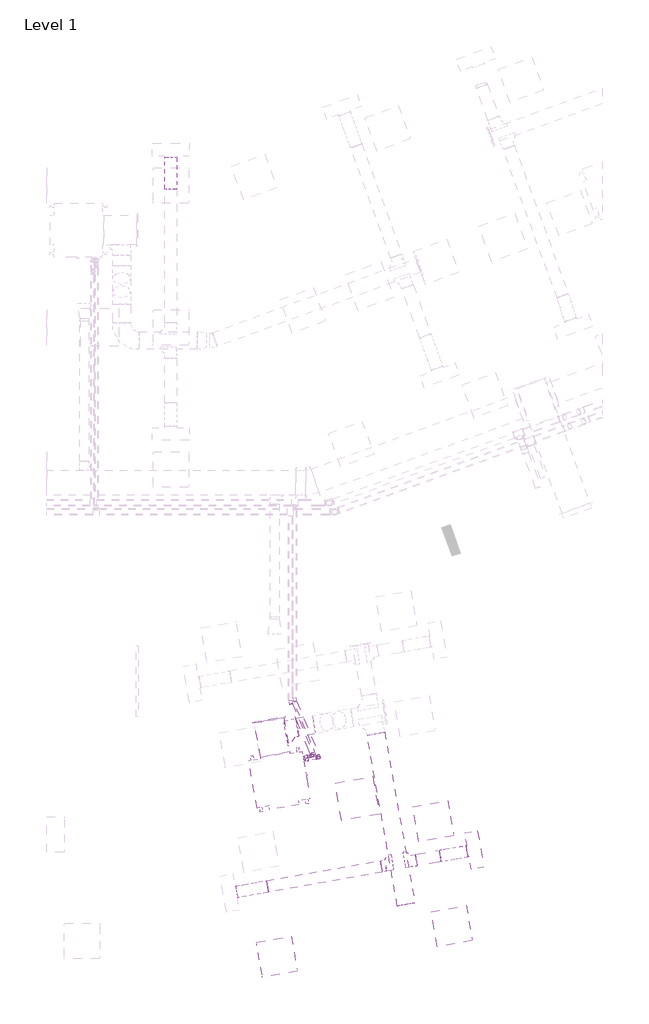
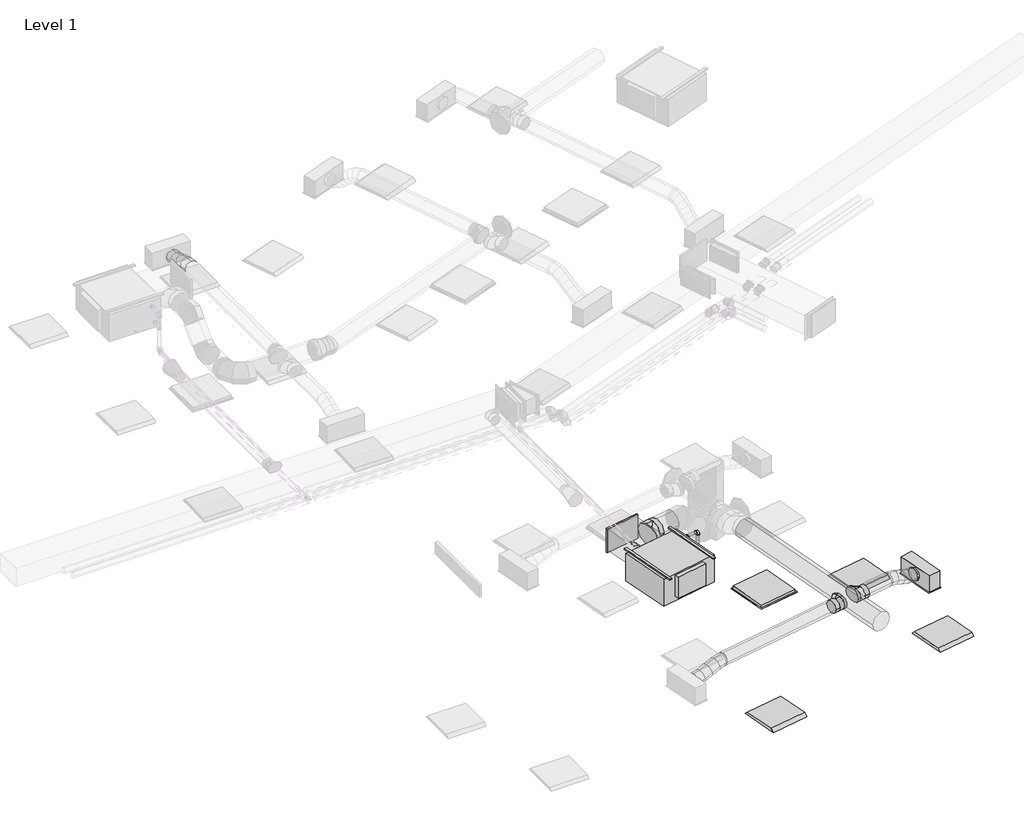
# One storey, part 15 of 30: 8 duct segments, 8 pipe fittings, 6 pipe segments, 4 duct fittings, 3 light fixtures, 2 air terminals, 1 proxy.
"""IFC4 building model written with IfcOpenShell, lengths in millimetres."""

from ifc_helpers import new_model, si_unit, point, frame, frame_2d, origin, place, context, project, spatial, polyline, circle_curve, ellipse_curve, trimmed, segment, composite_curve, outline, extrude, transform, mapped, element, save
from ifc_brep_helpers import plane_surface, cylinder_surface, advanced_brep
from components import return_grille_rectangular_hosted_standard_7b12617c, supply_diffuser_with_plenum_linear_slot_hosted_7a86b773, fan_coil_unit_ceiling_ducted_chw_376_lps_d7d55c98, dw144_rectangular_blank_end_standard_8fde7d16, dw144_round_shoe_branch_slip_joint1_standard_2_3a899113, dw144_round_shoe_branch_slip_joint1_standard_2_809a1802, light_fixture_1c7c1157, light_fixture_b730b5ca, elbow_threaded_gmi_standard_b4aa7741, elbow_threaded_gmi_standard_b1050e4a, socket_reducing_threaded_gmi_standard_0a4076b8

model = new_model("IFC4")

# Units and contexts
model_context = context("Model", 3, world=origin())
ifc_project = project(units=[si_unit("LENGTHUNIT", "METRE", prefix="MILLI")], contexts=[model_context])

# Site, building, storey
site = spatial("IfcSite", under=ifc_project)
building = spatial("IfcBuilding", under=site)
storey = spatial("IfcBuildingStorey", under=building, Name="Level 1", Elevation=3900.0)

# Air terminals
placement = place(None, origin())
return_grille_rectangular_hosted_standard_shape = return_grille_rectangular_hosted_standard_7b12617c(model_context)
element("IfcAirTerminal", 1, ObjectType="Return Grille - Rectangular - Hosted : Standard", at=placement, inside=storey, context=model_context, shape_type="MappedRepresentation", body=[
    mapped(return_grille_rectangular_hosted_standard_shape, transform((33910.5082617, 3801.8100308, 6700.0), x_axis=(0.9848077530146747, 0.17364817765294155, 0.0), y_axis=(0.17364817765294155, -0.9848077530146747, 0.0), z_axis=(0.0, 0.0, -1.0))),
])
supply_diffuser_with_plenum_linear_slot_hosted_shape = supply_diffuser_with_plenum_linear_slot_hosted_7a86b773(model_context)
element("IfcAirTerminal", 2, ObjectType="Supply Diffuser with Plenum - Linear Slot - Hosted : 24\" x 8\"-200 In Inlet  4-Slot", at=placement, inside=storey, context=model_context, shape_type="MappedRepresentation", body=[
    mapped(supply_diffuser_with_plenum_linear_slot_hosted_shape, transform((35891.5400303, 2932.607447, 6700.0), x_axis=(0.1736481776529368, -0.9848077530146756, 0.0), y_axis=(-0.9848077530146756, -0.1736481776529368, 0.0), z_axis=(0.0, 0.0, -1.0))),
])

# Proxy
fan_coil_unit_ceiling_ducted_chw_376_lps_shape = fan_coil_unit_ceiling_ducted_chw_376_lps_d7d55c98(model_context)
element("IfcBuildingElementProxy", 3, Name="Fan Coil Unit - Ceiling Ducted - CHW : 376 LPS", ObjectType="Fan Coil Unit - Ceiling Ducted - CHW : 376 LPS", at=placement, inside=storey, context=model_context, shape_type="MappedRepresentation", body=[
    mapped(fan_coil_unit_ceiling_ducted_chw_376_lps_shape, transform((32078.1076261, 4440.8551668, 7115.575), x_axis=(0.9848077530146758, 0.17364817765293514, 0.0), y_axis=(-0.17364817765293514, 0.9848077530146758, 0.0), z_axis=(0.0, 0.0, 1.0))),
])

# Duct fittings
dw144_rectangular_blank_end_standard_shape = dw144_rectangular_blank_end_standard_8fde7d16(model_context)
element("IfcDuctFitting", 4, ObjectType="DW144 Rectangular Blank End : Standard", at=placement, inside=storey, context=model_context, shape_type="MappedRepresentation", body=[
    mapped(dw144_rectangular_blank_end_standard_shape, transform((32422.2764887, 5121.8864184, 7369.575), x_axis=(-0.17364817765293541, 0.9848077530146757, 0.0), y_axis=(-0.9848077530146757, -0.17364817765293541, 0.0), z_axis=(0.0, 0.0, 1.0))),
])
dw144_round_shoe_branch_slip_joint1_standard_2_shape = dw144_round_shoe_branch_slip_joint1_standard_2_3a899113(model_context)
element("IfcDuctFitting", 5, ObjectType="DW144 Round Shoe Branch - Slip Joint1 : Standard 2", at=placement, inside=storey, context=model_context, shape_type="MappedRepresentation", body=[
    mapped(dw144_round_shoe_branch_slip_joint1_standard_2_shape, transform((34466.8544313, 2681.3969368, 6972.2088531), x_axis=(-0.9848077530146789, -0.17364817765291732, 0.0), y_axis=(0.17364817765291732, -0.9848077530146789, 0.0), z_axis=(0.0, 0.0, 1.0))),
])
element("IfcDuctFitting", 6, ObjectType="DW144 Round Shoe Branch - Slip Joint1 : Standard 2", at=placement, inside=storey, context=model_context, shape_type="MappedRepresentation", body=[
    mapped(dw144_round_shoe_branch_slip_joint1_standard_2_shape, transform((34762.2967572, 2733.4913901, 6972.2088531), x_axis=(0.9848077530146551, 0.1736481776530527, 0.0), y_axis=(0.1736481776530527, -0.9848077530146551, 0.0), z_axis=(0.0, 0.0, -1.0))),
])
dw144_round_shoe_branch_slip_joint1_standard_2_2_shape = dw144_round_shoe_branch_slip_joint1_standard_2_809a1802(model_context)
element("IfcDuctFitting", 7, ObjectType="DW144 Round Shoe Branch - Slip Joint1 : Standard 2", at=placement, inside=storey, context=model_context, shape_type="MappedRepresentation", body=[
    mapped(dw144_round_shoe_branch_slip_joint1_standard_2_2_shape, transform((32703.167519, 4968.5668456, 7369.575), x_axis=(0.9848077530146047, 0.17364817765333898, 0.0), y_axis=(-0.17364817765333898, 0.9848077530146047, 0.0), z_axis=(0.0, 0.0, 1.0))),
])

# Duct segments
element("IfcDuctSegment", 8, ObjectType="DW144 Flanged Med Radius Bend / Shoe Branch", at=placement, inside=storey, context=model_context, shape_type="SweptSolid", body=[
    extrude(outline(polyline([(32770.1530053, 4588.6732749), (32277.7491288, 4501.8491861), (32176.0745504, 5078.474374), (32668.4784269, 5165.2984628), (32770.1530053, 4588.6732749)])), frame((0.0, 0.0, 7194.575), z_axis=(0.0, 0.0, 1.0), x_axis=(1.0, 0.0, 0.0)), (0.0, 0.0, 1.0), 350.0),
])
element("IfcDuctSegment", 9, ObjectType="DW144 Segmented Bend / Shoe Branch", at=placement, inside=storey, context=model_context, shape_type="SweptSolid", body=[
    extrude(outline(composite_curve([segment(trimmed(circle_curve(frame_2d((0.0, 157.5)), 157.5), [point((157.5, 157.5))], [point((0.0, 0.0))], False, "CARTESIAN"), True, "CONTINUOUS"), segment(trimmed(circle_curve(frame_2d((0.0, 157.5)), 157.5), [point((0.0, 0.0))], [point((-157.5, 157.5))], False, "CARTESIAN"), True, "CONTINUOUS"), segment(trimmed(circle_curve(frame_2d((0.0, 157.5)), 157.5), [point((-157.5, 157.5))], [point((0.0, 315.0))], False, "CARTESIAN"), True, "CONTINUOUS"), segment(trimmed(circle_curve(frame_2d((0.0, 157.5)), 157.5), [point((0.0, 315.0))], [point((157.5, 157.5))], False, "CARTESIAN"), True, "CONTINUOUS")], self_intersect=False)), frame((32900.1290696, 5003.2964811, 7527.075), z_axis=(0.9848077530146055, 0.17364817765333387, 0.0), x_axis=(0.17364817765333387, -0.9848077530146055, 0.0)), (0.0, 0.0, 1.0), 282.8859657),
])
element("IfcDuctSegment", 10, ObjectType="DW144 Segmented Bend / Shoe Branch", at=placement, inside=storey, context=model_context, shape_type="SweptSolid", body=[
    extrude(outline(composite_curve([segment(trimmed(circle_curve(frame_2d((0.0, 100.0)), 100.0), [point((100.0, 100.0))], [point((0.0, 0.0))], False, "CARTESIAN"), True, "CONTINUOUS"), segment(trimmed(circle_curve(frame_2d((0.0, 100.0)), 100.0), [point((0.0, 0.0))], [point((-100.0, 100.0))], False, "CARTESIAN"), True, "CONTINUOUS"), segment(trimmed(circle_curve(frame_2d((0.0, 100.0)), 100.0), [point((-100.0, 100.0))], [point((0.0, 200.0))], False, "CARTESIAN"), True, "CONTINUOUS"), segment(trimmed(circle_curve(frame_2d((0.0, 100.0)), 100.0), [point((0.0, 200.0))], [point((100.0, 100.0))], False, "CARTESIAN"), True, "CONTINUOUS")], self_intersect=False)), frame((34910.0179201, 2759.5386168, 7072.2088531), z_axis=(0.9848077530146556, 0.1736481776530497, 0.0), x_axis=(0.1736481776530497, -0.9848077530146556, 0.0)), (0.0, 0.0, 1.0), 410.0),
])
element("IfcDuctSegment", 11, ObjectType="DW144 Segmented Bend / Shoe Branch", at=placement, inside=storey, context=model_context, shape_type="SweptSolid", body=[
    extrude(outline(composite_curve([segment(trimmed(circle_curve(frame_2d((0.0, -100.0)), 100.0), [point((-100.0, -100.0))], [point((0.0, 0.0))], False, "CARTESIAN"), True, "CONTINUOUS"), segment(trimmed(circle_curve(frame_2d((0.0, -100.0)), 100.0), [point((0.0, 0.0))], [point((100.0, -100.0))], False, "CARTESIAN"), True, "CONTINUOUS"), segment(trimmed(circle_curve(frame_2d((0.0, -100.0)), 100.0), [point((100.0, -100.0))], [point((0.0, -200.0))], False, "CARTESIAN"), True, "CONTINUOUS"), segment(trimmed(circle_curve(frame_2d((0.0, -100.0)), 100.0), [point((0.0, -200.0))], [point((-100.0, -100.0))], False, "CARTESIAN"), True, "CONTINUOUS")], self_intersect=False)), frame((32398.75815, 2316.7357638, 6872.2088531), z_axis=(0.9848077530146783, 0.1736481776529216, 0.0), x_axis=(0.1736481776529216, -0.9848077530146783, 0.0)), (0.0, 0.0, 1.0), 1950.0),
])
element("IfcDuctSegment", 12, ObjectType="DW144 Segmented Bend / Shoe Branch", at=placement, inside=storey, context=model_context, shape_type="SweptSolid", body=[
    extrude(outline(composite_curve([segment(trimmed(circle_curve(frame_2d((0.0, -150.0)), 150.0), [point((-150.0, -150.0))], [point((0.0, 0.0))], False, "CARTESIAN"), True, "CONTINUOUS"), segment(trimmed(circle_curve(frame_2d((0.0, -150.0)), 150.0), [point((0.0, 0.0))], [point((150.0, -150.0))], False, "CARTESIAN"), True, "CONTINUOUS"), segment(trimmed(circle_curve(frame_2d((0.0, -150.0)), 150.0), [point((150.0, -150.0))], [point((0.0, -300.0))], False, "CARTESIAN"), True, "CONTINUOUS"), segment(trimmed(circle_curve(frame_2d((0.0, -150.0)), 150.0), [point((0.0, -300.0))], [point((-150.0, -150.0))], False, "CARTESIAN"), True, "CONTINUOUS")], self_intersect=False)), frame((34737.6074608, 2009.6957754, 6822.2088531), z_axis=(-0.17364817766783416, 0.9848077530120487, 0.0), x_axis=(0.9848077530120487, 0.17364817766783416, 0.0)), (0.0, 0.0, 1.0), 2934.6959585),
])
element("IfcDuctSegment", 13, ObjectType="Flex - Round", at=placement, inside=storey, context=model_context, shape_type="AdvancedBrep", body=[
    advanced_brep(
    [(32416.1229677, 2218.2549885, 6972.2088531), (32398.75815, 2316.7357638, 6872.2088531), (32381.3933322, 2415.2165391, 6972.2088531), (32398.75815, 2316.7357638, 7072.2088531), (32402.6021578, 2215.8709049, 6972.2088531), (32392.8043595, 2315.6859499, 6872.2088531), (32367.8725222, 2412.8324555, 6972.2088531), (32377.6703205, 2313.0174105, 7072.2088531), (31897.7828701, 2126.8576441, 6854.4), (31880.4180523, 2225.3384194, 6954.4), (31863.0532345, 2323.8191947, 6854.4), (31880.4180523, 2225.3384194, 6754.4), (32285.3355536, 2195.1936386, 6953.8012198), (32290.2224077, 2297.597984, 6856.1063066), (32250.6059181, 2392.1551892, 6953.8012198), (32245.7190639, 2289.7508438, 7051.4961331), (32156.9529189, 2172.5563163, 6913.3044266), (32168.8035633, 2276.1885658, 6817.8061591), (32122.2232834, 2369.5178669, 6913.3044266), (32110.3726389, 2265.8856173, 7008.802694), (32028.5702842, 2149.9189939, 6872.8076333), (32033.4571383, 2252.3233393, 6775.1127201), (31993.8406487, 2346.8805445, 6872.8076333), (31988.9537945, 2244.4761991, 6970.5025465), (31911.30368, 2129.2417277, 6854.4), (31901.5058817, 2229.0567727, 6754.4), (31876.5740445, 2326.2032783, 6854.4), (31886.3718428, 2226.3882333, 6954.4)],
    [
        (0, 1, circle_curve(frame((32398.75815, 2316.7357638, 6972.2088531), z_axis=(0.9848077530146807, 0.17364817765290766, 0.0), x_axis=(0.17364817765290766, -0.9848077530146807, 0.0)), 100.0)),
        (1, 2, circle_curve(frame((32398.75815, 2316.7357638, 6972.2088531), z_axis=(0.9848077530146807, 0.17364817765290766, 0.0), x_axis=(0.17364817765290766, -0.9848077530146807, 0.0)), 100.0)),
        (2, 3, circle_curve(frame((32398.75815, 2316.7357638, 6972.2088531), z_axis=(0.9848077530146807, 0.17364817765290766, 0.0), x_axis=(0.17364817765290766, -0.9848077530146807, 0.0)), 100.0)),
        (3, 0, circle_curve(frame((32398.75815, 2316.7357638, 6972.2088531), z_axis=(0.9848077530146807, 0.17364817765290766, 0.0), x_axis=(0.17364817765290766, -0.9848077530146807, 0.0)), 100.0)),
        (0, 4),
        (4, 5, ellipse_curve(frame((32385.23734, 2314.3516802, 6972.2088531), z_axis=(0.9819134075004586, 0.17313782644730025, 0.0766117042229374), x_axis=(0.07544780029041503, 0.01330348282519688, -0.9970610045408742)), 100.2947659, 100.0)),
        (5, 1),
        (5, 6, ellipse_curve(frame((32385.23734, 2314.3516802, 6972.2088531), z_axis=(0.9819134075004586, 0.17313782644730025, 0.0766117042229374), x_axis=(0.07544780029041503, 0.01330348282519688, -0.9970610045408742)), 100.2947659, 100.0)),
        (6, 2),
        (6, 7, ellipse_curve(frame((32385.23734, 2314.3516802, 6972.2088531), z_axis=(0.9819134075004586, 0.17313782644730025, 0.0766117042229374), x_axis=(0.07544780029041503, 0.01330348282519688, -0.9970610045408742)), 100.2947659, 100.0)),
        (7, 3),
        (7, 4, ellipse_curve(frame((32385.23734, 2314.3516802, 6972.2088531), z_axis=(0.9819134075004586, 0.17313782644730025, 0.0766117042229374), x_axis=(0.07544780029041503, 0.01330348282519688, -0.9970610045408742)), 100.2947659, 100.0)),
        (8, 9, circle_curve(frame((31880.4180523, 2225.3384194, 6854.4), z_axis=(-0.9848077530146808, -0.17364817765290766, 0.0), x_axis=(0.17364817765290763, -0.9848077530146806, 0.0)), 100.0)),
        (9, 10, circle_curve(frame((31880.4180523, 2225.3384194, 6854.4), z_axis=(-0.9848077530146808, -0.17364817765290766, 0.0), x_axis=(0.17364817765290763, -0.9848077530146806, 0.0)), 100.0)),
        (10, 11, circle_curve(frame((31880.4180523, 2225.3384194, 6854.4), z_axis=(-0.9848077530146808, -0.17364817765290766, 0.0), x_axis=(0.17364817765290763, -0.9848077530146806, 0.0)), 100.0)),
        (11, 8, circle_curve(frame((31880.4180523, 2225.3384194, 6854.4), z_axis=(-0.9848077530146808, -0.17364817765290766, 0.0), x_axis=(0.17364817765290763, -0.9848077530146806, 0.0)), 100.0)),
        (4, 12),
        (12, 13, ellipse_curve(frame((32267.9707358, 2293.6744139, 6953.8012198), z_axis=(0.9594803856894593, 0.16918227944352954, 0.225332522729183), x_axis=(0.22190921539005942, 0.039128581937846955, -0.9742819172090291)), 100.2737622, 100.0)),
        (13, 5),
        (13, 14, ellipse_curve(frame((32267.9707358, 2293.6744139, 6953.8012198), z_axis=(0.9594803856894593, 0.16918227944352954, 0.225332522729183), x_axis=(0.22190921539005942, 0.039128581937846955, -0.9742819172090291)), 100.2737622, 100.0)),
        (14, 6),
        (14, 15, ellipse_curve(frame((32267.9707358, 2293.6744139, 6953.8012198), z_axis=(0.9594803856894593, 0.16918227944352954, 0.225332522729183), x_axis=(0.22190921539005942, 0.039128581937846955, -0.9742819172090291)), 100.2737622, 100.0)),
        (15, 7),
        (15, 12, ellipse_curve(frame((32267.9707358, 2293.6744139, 6953.8012198), z_axis=(0.9594803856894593, 0.16918227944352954, 0.225332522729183), x_axis=(0.22190921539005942, 0.039128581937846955, -0.9742819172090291)), 100.2737622, 100.0)),
        (12, 16),
        (16, 17, circle_curve(frame((32139.5881011, 2271.0370916, 6913.3044266), z_axis=(0.9404743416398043, 0.16583100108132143, 0.2966615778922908), x_axis=(0.17364817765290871, -0.9848077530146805, 0.0)), 100.0)),
        (17, 13),
        (17, 18, circle_curve(frame((32139.5881011, 2271.0370916, 6913.3044266), z_axis=(0.9404743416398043, 0.16583100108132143, 0.2966615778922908), x_axis=(0.17364817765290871, -0.9848077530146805, 0.0)), 100.0)),
        (18, 14),
        (18, 19, circle_curve(frame((32139.5881011, 2271.0370916, 6913.3044266), z_axis=(0.9404743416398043, 0.16583100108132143, 0.2966615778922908), x_axis=(0.17364817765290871, -0.9848077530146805, 0.0)), 100.0)),
        (19, 15),
        (19, 16, circle_curve(frame((32139.5881011, 2271.0370916, 6913.3044266), z_axis=(0.9404743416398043, 0.16583100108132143, 0.2966615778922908), x_axis=(0.17364817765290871, -0.9848077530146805, 0.0)), 100.0)),
        (16, 20),
        (20, 21, ellipse_curve(frame((32011.2054664, 2248.3997692, 6872.8076333), z_axis=(0.9594803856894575, 0.16918227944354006, 0.22533252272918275), x_axis=(-0.22190921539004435, -0.039128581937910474, 0.9742819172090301)), 100.2737622, 100.0)),
        (21, 17),
        (21, 22, ellipse_curve(frame((32011.2054664, 2248.3997692, 6872.8076333), z_axis=(0.9594803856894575, 0.16918227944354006, 0.22533252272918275), x_axis=(-0.22190921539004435, -0.039128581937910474, 0.9742819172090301)), 100.2737622, 100.0)),
        (22, 18),
        (22, 23, ellipse_curve(frame((32011.2054664, 2248.3997692, 6872.8076333), z_axis=(0.9594803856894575, 0.16918227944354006, 0.22533252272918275), x_axis=(-0.22190921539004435, -0.039128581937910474, 0.9742819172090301)), 100.2737622, 100.0)),
        (23, 19),
        (23, 20, ellipse_curve(frame((32011.2054664, 2248.3997692, 6872.8076333), z_axis=(0.9594803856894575, 0.16918227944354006, 0.22533252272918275), x_axis=(-0.22190921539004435, -0.039128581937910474, 0.9742819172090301)), 100.2737622, 100.0)),
        (20, 24),
        (24, 25, ellipse_curve(frame((31893.9388622, 2227.722503, 6854.4), z_axis=(0.9819134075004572, 0.17313782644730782, 0.07661170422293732), x_axis=(-0.07544780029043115, -0.013303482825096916, 0.9970610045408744)), 100.2947659, 100.0)),
        (25, 21),
        (25, 26, ellipse_curve(frame((31893.9388622, 2227.722503, 6854.4), z_axis=(0.9819134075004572, 0.17313782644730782, 0.07661170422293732), x_axis=(-0.07544780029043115, -0.013303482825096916, 0.9970610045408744)), 100.2947659, 100.0)),
        (26, 22),
        (26, 27, ellipse_curve(frame((31893.9388622, 2227.722503, 6854.4), z_axis=(0.9819134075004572, 0.17313782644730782, 0.07661170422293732), x_axis=(-0.07544780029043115, -0.013303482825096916, 0.9970610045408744)), 100.2947659, 100.0)),
        (27, 23),
        (27, 24, ellipse_curve(frame((31893.9388622, 2227.722503, 6854.4), z_axis=(0.9819134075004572, 0.17313782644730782, 0.07661170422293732), x_axis=(-0.07544780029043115, -0.013303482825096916, 0.9970610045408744)), 100.2947659, 100.0)),
        (24, 8),
        (11, 25),
        (10, 26),
        (9, 27),
    ],
    [
        plane_surface(frame((32398.75815, 2316.7357638, 6872.2088531), z_axis=(0.9848077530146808, 0.17364817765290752, 0.0), x_axis=(0.17364817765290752, -0.9848077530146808, 0.0))),
        cylinder_surface(frame((32398.75815, 2316.7357638, 6972.2088531), z_axis=(0.9848077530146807, 0.17364817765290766, 0.0), x_axis=(0.17364817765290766, -0.9848077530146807, 0.0)), 100.0),
        plane_surface(frame((31880.4180523, 2225.3384194, 6754.4), z_axis=(-0.9848077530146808, -0.17364817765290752, 0.0), x_axis=(0.17364817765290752, -0.9848077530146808, 0.0))),
        cylinder_surface(frame((32385.23734, 2314.3516802, 6972.2088531), z_axis=(0.9732473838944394, 0.17160977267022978, 0.1527730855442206), x_axis=(0.17364817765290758, -0.9848077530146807, 0.0)), 100.0),
        cylinder_surface(frame((32267.9707358, 2293.6744139, 6953.8012198), z_axis=(0.9404743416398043, 0.16583100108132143, 0.2966615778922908), x_axis=(0.17364817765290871, -0.9848077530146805, 0.0)), 100.0),
        cylinder_surface(frame((32139.5881011, 2271.0370916, 6913.3044266), z_axis=(0.9404743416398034, 0.1658310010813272, 0.2966615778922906), x_axis=(0.17364817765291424, -0.9848077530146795, 0.0)), 100.0),
        cylinder_surface(frame((32011.2054664, 2248.3997692, 6872.8076333), z_axis=(0.9732473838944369, 0.17160977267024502, 0.15277308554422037), x_axis=(0.17364817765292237, -0.984807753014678, 0.0)), 100.0),
        cylinder_surface(frame((31893.9388622, 2227.722503, 6854.4), z_axis=(0.9848077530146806, 0.17364817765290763, 0.0), x_axis=(0.17364817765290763, -0.9848077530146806, 0.0)), 100.0),
    ],
    [
        (0, [[1, 2, 3, 4]]),
        (1, [[-1, 5, 6, 7]]),
        (1, [[-2, -7, 8, 9]]),
        (1, [[-3, -9, 10, 11]]),
        (1, [[-4, -11, 12, -5]]),
        (2, [[13, 14, 15, 16]]),
        (3, [[-6, 17, 18, 19]]),
        (3, [[-8, -19, 20, 21]]),
        (3, [[-10, -21, 22, 23]]),
        (3, [[-12, -23, 24, -17]]),
        (4, [[-18, 25, 26, 27]]),
        (4, [[-20, -27, 28, 29]]),
        (4, [[-22, -29, 30, 31]]),
        (4, [[-24, -31, 32, -25]]),
        (5, [[-26, 33, 34, 35]]),
        (5, [[-28, -35, 36, 37]]),
        (5, [[-30, -37, 38, 39]]),
        (5, [[-32, -39, 40, -33]]),
        (6, [[-34, 41, 42, 43]]),
        (6, [[-36, -43, 44, 45]]),
        (6, [[-38, -45, 46, 47]]),
        (6, [[-40, -47, 48, -41]]),
        (7, [[-42, 49, -16, 50]]),
        (7, [[-44, -50, -15, 51]]),
        (7, [[-46, -51, -14, 52]]),
        (7, [[-48, -52, -13, -49]]),
    ],
),
])
element("IfcDuctSegment", 14, ObjectType="Flex - Round", at=placement, inside=storey, context=model_context, shape_type="AdvancedBrep", body=[
    advanced_brep(
    [(35296.4242811, 2929.2151449, 6972.2088531), (35313.7890989, 2830.7343696, 6872.2088531), (35331.1539166, 2732.2535943, 6972.2088531), (35313.7890989, 2830.7343696, 7072.2088531), (35311.8187601, 2931.9296069, 6972.2088531), (35320.2545294, 2831.8743995, 6872.2088531), (35346.5483956, 2734.9680563, 6972.2088531), (35338.1126264, 2835.0232638, 7072.2088531), (35749.1046279, 3009.0349037, 6854.4), (35766.4694457, 2910.5541284, 6954.4), (35783.8342635, 2812.0733531, 6854.4), (35766.4694457, 2910.5541284, 6754.4), (35410.9660267, 2949.4119451, 6953.8012198), (35402.7633592, 2846.4229323, 6856.8903039), (35445.6956623, 2752.4503945, 6953.8012198), (35453.8983298, 2855.4394073, 7050.7121357), (35522.7644545, 2969.1250243, 6913.3044266), (35507.0407869, 2864.8098563, 6819.1178458), (35557.4940901, 2772.1634737, 6913.3044266), (35573.2177577, 2876.4786417, 7007.4910073), (35634.5628823, 2988.8381035, 6872.8076333), (35626.3602148, 2885.8490908, 6775.8967174), (35669.2925178, 2791.8765529, 6872.8076333), (35677.4951853, 2894.8655657, 6969.7185492), (35733.7101489, 3006.3204417, 6854.4), (35742.1459182, 2906.2652342, 6754.4), (35768.4397845, 2809.3588911, 6854.4), (35760.0040152, 2909.4140986, 6954.4)],
    [
        (0, 1, circle_curve(frame((35313.7890989, 2830.7343696, 6972.2088531), z_axis=(-0.9848077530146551, -0.17364817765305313, 0.0), x_axis=(-0.17364817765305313, 0.9848077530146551, 0.0)), 100.0)),
        (1, 2, circle_curve(frame((35313.7890989, 2830.7343696, 6972.2088531), z_axis=(-0.9848077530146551, -0.17364817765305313, 0.0), x_axis=(-0.17364817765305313, 0.9848077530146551, 0.0)), 100.0)),
        (2, 3, circle_curve(frame((35313.7890989, 2830.7343696, 6972.2088531), z_axis=(-0.9848077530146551, -0.17364817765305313, 0.0), x_axis=(-0.17364817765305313, 0.9848077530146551, 0.0)), 100.0)),
        (3, 0, circle_curve(frame((35313.7890989, 2830.7343696, 6972.2088531), z_axis=(-0.9848077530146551, -0.17364817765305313, 0.0), x_axis=(-0.17364817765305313, 0.9848077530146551, 0.0)), 100.0)),
        (0, 4),
        (4, 5, ellipse_curve(frame((35329.1835779, 2833.4488316, 6972.2088531), z_axis=(-0.9807846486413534, -0.1729387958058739, 0.09029754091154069), x_axis=(-0.08892571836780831, -0.015680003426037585, -0.9959148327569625)), 100.4101924, 100.0)),
        (5, 1),
        (5, 6, ellipse_curve(frame((35329.1835779, 2833.4488316, 6972.2088531), z_axis=(-0.9807846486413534, -0.1729387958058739, 0.09029754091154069), x_axis=(-0.08892571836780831, -0.015680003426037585, -0.9959148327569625)), 100.4101924, 100.0)),
        (6, 2),
        (6, 7, ellipse_curve(frame((35329.1835779, 2833.4488316, 6972.2088531), z_axis=(-0.9807846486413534, -0.1729387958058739, 0.09029754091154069), x_axis=(-0.08892571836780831, -0.015680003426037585, -0.9959148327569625)), 100.4101924, 100.0)),
        (7, 3),
        (7, 4, ellipse_curve(frame((35329.1835779, 2833.4488316, 6972.2088531), z_axis=(-0.9807846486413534, -0.1729387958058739, 0.09029754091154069), x_axis=(-0.08892571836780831, -0.015680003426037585, -0.9959148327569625)), 100.4101924, 100.0)),
        (8, 9, circle_curve(frame((35766.4694457, 2910.5541284, 6854.4), z_axis=(0.9848077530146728, 0.17364817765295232, 0.0), x_axis=(-0.17364817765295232, 0.9848077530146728, 0.0)), 100.0)),
        (9, 10, circle_curve(frame((35766.4694457, 2910.5541284, 6854.4), z_axis=(0.9848077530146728, 0.17364817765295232, 0.0), x_axis=(-0.17364817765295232, 0.9848077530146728, 0.0)), 100.0)),
        (10, 11, circle_curve(frame((35766.4694457, 2910.5541284, 6854.4), z_axis=(0.9848077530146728, 0.17364817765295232, 0.0), x_axis=(-0.17364817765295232, 0.9848077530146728, 0.0)), 100.0)),
        (11, 8, circle_curve(frame((35766.4694457, 2910.5541284, 6854.4), z_axis=(0.9848077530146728, 0.17364817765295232, 0.0), x_axis=(-0.17364817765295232, 0.9848077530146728, 0.0)), 100.0)),
        (4, 12),
        (12, 13, ellipse_curve(frame((35428.3308445, 2850.9311698, 6953.8012198), z_axis=(-0.9512642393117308, -0.1677335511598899, 0.25876978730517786), x_axis=(-0.25483849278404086, -0.04493490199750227, -0.9659390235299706)), 100.3281921, 100.0)),
        (13, 5),
        (13, 14, ellipse_curve(frame((35428.3308445, 2850.9311698, 6953.8012198), z_axis=(-0.9512642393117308, -0.1677335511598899, 0.25876978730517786), x_axis=(-0.25483849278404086, -0.04493490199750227, -0.9659390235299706)), 100.3281921, 100.0)),
        (14, 6),
        (14, 15, ellipse_curve(frame((35428.3308445, 2850.9311698, 6953.8012198), z_axis=(-0.9512642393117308, -0.1677335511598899, 0.25876978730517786), x_axis=(-0.25483849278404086, -0.04493490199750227, -0.9659390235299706)), 100.3281921, 100.0)),
        (15, 7),
        (15, 12, ellipse_curve(frame((35428.3308445, 2850.9311698, 6953.8012198), z_axis=(-0.9512642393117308, -0.1677335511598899, 0.25876978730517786), x_axis=(-0.25483849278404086, -0.04493490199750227, -0.9659390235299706)), 100.3281921, 100.0)),
        (12, 16),
        (16, 17, circle_curve(frame((35540.1292723, 2870.644249, 6913.3044266), z_axis=(-0.9275567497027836, -0.1635532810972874, 0.33598928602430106), x_axis=(-0.17364817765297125, 0.9848077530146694, 0.0)), 100.0)),
        (17, 13),
        (17, 18, circle_curve(frame((35540.1292723, 2870.644249, 6913.3044266), z_axis=(-0.9275567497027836, -0.1635532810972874, 0.33598928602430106), x_axis=(-0.17364817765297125, 0.9848077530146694, 0.0)), 100.0)),
        (18, 14),
        (18, 19, circle_curve(frame((35540.1292723, 2870.644249, 6913.3044266), z_axis=(-0.9275567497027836, -0.1635532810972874, 0.33598928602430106), x_axis=(-0.17364817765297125, 0.9848077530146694, 0.0)), 100.0)),
        (19, 15),
        (19, 16, circle_curve(frame((35540.1292723, 2870.644249, 6913.3044266), z_axis=(-0.9275567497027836, -0.1635532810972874, 0.33598928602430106), x_axis=(-0.17364817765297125, 0.9848077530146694, 0.0)), 100.0)),
        (16, 20),
        (20, 21, ellipse_curve(frame((35651.9277001, 2890.3573282, 6872.8076333), z_axis=(-0.9512642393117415, -0.16773355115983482, 0.258769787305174), x_axis=(0.2548384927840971, 0.04493490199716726, 0.9659390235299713)), 100.3281921, 100.0)),
        (21, 17),
        (21, 22, ellipse_curve(frame((35651.9277001, 2890.3573282, 6872.8076333), z_axis=(-0.9512642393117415, -0.16773355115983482, 0.258769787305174), x_axis=(0.2548384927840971, 0.04493490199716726, 0.9659390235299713)), 100.3281921, 100.0)),
        (22, 18),
        (22, 23, ellipse_curve(frame((35651.9277001, 2890.3573282, 6872.8076333), z_axis=(-0.9512642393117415, -0.16773355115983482, 0.258769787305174), x_axis=(0.2548384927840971, 0.04493490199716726, 0.9659390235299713)), 100.3281921, 100.0)),
        (23, 19),
        (23, 20, ellipse_curve(frame((35651.9277001, 2890.3573282, 6872.8076333), z_axis=(-0.9512642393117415, -0.16773355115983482, 0.258769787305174), x_axis=(0.2548384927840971, 0.04493490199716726, 0.9659390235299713)), 100.3281921, 100.0)),
        (20, 24),
        (24, 25, ellipse_curve(frame((35751.0749667, 2907.8396664, 6854.4), z_axis=(-0.9807846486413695, -0.1729387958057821, 0.09029754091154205), x_axis=(0.08892571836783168, 0.015680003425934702, 0.9959148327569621)), 100.4101924, 100.0)),
        (25, 21),
        (25, 26, ellipse_curve(frame((35751.0749667, 2907.8396664, 6854.4), z_axis=(-0.9807846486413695, -0.1729387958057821, 0.09029754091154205), x_axis=(0.08892571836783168, 0.015680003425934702, 0.9959148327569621)), 100.4101924, 100.0)),
        (26, 22),
        (26, 27, ellipse_curve(frame((35751.0749667, 2907.8396664, 6854.4), z_axis=(-0.9807846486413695, -0.1729387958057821, 0.09029754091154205), x_axis=(0.08892571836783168, 0.015680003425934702, 0.9959148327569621)), 100.4101924, 100.0)),
        (27, 23),
        (27, 24, ellipse_curve(frame((35751.0749667, 2907.8396664, 6854.4), z_axis=(-0.9807846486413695, -0.1729387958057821, 0.09029754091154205), x_axis=(0.08892571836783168, 0.015680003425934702, 0.9959148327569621)), 100.4101924, 100.0)),
        (24, 8),
        (11, 25),
        (10, 26),
        (9, 27),
    ],
    [
        plane_surface(frame((35313.7890989, 2830.7343696, 7072.2088531), z_axis=(-0.9848077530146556, -0.1736481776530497, 0.0), x_axis=(0.1736481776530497, -0.9848077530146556, 0.0))),
        cylinder_surface(frame((35313.7890989, 2830.7343696, 6972.2088531), z_axis=(-0.9848077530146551, -0.17364817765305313, 0.0), x_axis=(-0.17364817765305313, 0.9848077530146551, 0.0)), 100.0),
        plane_surface(frame((35766.4694457, 2910.5541284, 6954.4), z_axis=(0.9848077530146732, 0.1736481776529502, 0.0), x_axis=(0.1736481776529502, -0.9848077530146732, 0.0))),
        cylinder_surface(frame((35329.1835779, 2833.4488316, 6972.2088531), z_axis=(-0.9687482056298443, -0.1708164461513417, 0.17985732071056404), x_axis=(-0.17364817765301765, 0.9848077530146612, 0.0)), 100.0),
        cylinder_surface(frame((35428.3308445, 2850.9311698, 6953.8012198), z_axis=(-0.9275567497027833, -0.16355328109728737, 0.335989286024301), x_axis=(-0.17364817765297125, 0.9848077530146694, 0.0)), 100.0),
        cylinder_surface(frame((35540.1292723, 2870.644249, 6913.3044266), z_axis=(-0.9275567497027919, -0.16355328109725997, 0.33598928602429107), x_axis=(-0.17364817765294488, 0.9848077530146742, 0.0)), 100.0),
        cylinder_surface(frame((35651.9277001, 2890.3573282, 6872.8076333), z_axis=(-0.9687482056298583, -0.17081644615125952, 0.17985732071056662), x_axis=(-0.17364817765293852, 0.9848077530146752, 0.0)), 100.0),
        cylinder_surface(frame((35751.0749667, 2907.8396664, 6854.4), z_axis=(-0.9848077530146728, -0.17364817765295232, 0.0), x_axis=(-0.17364817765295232, 0.9848077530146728, 0.0)), 100.0),
    ],
    [
        (0, [[1, 2, 3, 4]]),
        (1, [[-1, 5, 6, 7]]),
        (1, [[-2, -7, 8, 9]]),
        (1, [[-3, -9, 10, 11]]),
        (1, [[-4, -11, 12, -5]]),
        (2, [[13, 14, 15, 16]]),
        (3, [[-6, 17, 18, 19]]),
        (3, [[-8, -19, 20, 21]]),
        (3, [[-10, -21, 22, 23]]),
        (3, [[-12, -23, 24, -17]]),
        (4, [[-18, 25, 26, 27]]),
        (4, [[-20, -27, 28, 29]]),
        (4, [[-22, -29, 30, 31]]),
        (4, [[-24, -31, 32, -25]]),
        (5, [[-26, 33, 34, 35]]),
        (5, [[-28, -35, 36, 37]]),
        (5, [[-30, -37, 38, 39]]),
        (5, [[-32, -39, 40, -33]]),
        (6, [[-34, 41, 42, 43]]),
        (6, [[-36, -43, 44, 45]]),
        (6, [[-38, -45, 46, 47]]),
        (6, [[-40, -47, 48, -41]]),
        (7, [[-42, 49, -16, 50]]),
        (7, [[-44, -50, -15, 51]]),
        (7, [[-46, -51, -14, 52]]),
        (7, [[-48, -52, -13, -49]]),
    ],
),
])
element("IfcDuctSegment", 15, ObjectType="Flex - Round", at=placement, inside=storey, context=model_context, shape_type="AdvancedBrep", body=[
    advanced_brep(
    [(30662.2000027, 14100.4916128, 6972.2088531), (30762.2000027, 14100.4916128, 6872.2088531), (30862.2000027, 14100.4916128, 6972.2088531), (30762.2000027, 14100.4916128, 7072.2088531), (30662.2000027, 14113.9893992, 6972.2088531), (30762.2000027, 14106.4651408, 6872.2088531), (30862.2000027, 14113.9893992, 6972.2088531), (30762.2000027, 14121.5136576, 7072.2088531), (30662.2000027, 14636.2000004, 6854.4), (30762.2000027, 14636.2000004, 6954.4), (30862.2000027, 14636.2000004, 6854.4), (30762.2000027, 14636.2000004, 6754.4), (30662.2000027, 14235.618791, 6953.8012198), (30762.2000027, 14213.4273542, 6856.0209797), (30862.2000027, 14235.618791, 6953.8012198), (30762.2000027, 14257.8102277, 7051.58146), (30662.2000027, 14368.3458066, 6913.3044266), (30762.2000027, 14339.1626335, 6817.657459), (30862.2000027, 14368.3458066, 6913.3044266), (30762.2000027, 14397.5289797, 7008.9513941), (30662.2000027, 14501.0728222, 6872.8076333), (30762.2000027, 14478.8813855, 6775.0273932), (30862.2000027, 14501.0728222, 6872.8076333), (30762.2000027, 14523.264259, 6970.5878734), (30662.2000027, 14622.702214, 6854.4), (30762.2000027, 14615.1779556, 6754.4), (30862.2000027, 14622.702214, 6854.4), (30762.2000027, 14630.2264724, 6954.4)],
    [
        (0, 1, circle_curve(frame((30762.2000027, 14100.4916128, 6972.2088531), z_axis=(0.0, -1.0, 0.0), x_axis=(-1.0, 0.0, 0.0)), 100.0)),
        (1, 2, circle_curve(frame((30762.2000027, 14100.4916128, 6972.2088531), z_axis=(0.0, -1.0, 0.0), x_axis=(-1.0, 0.0, 0.0)), 100.0)),
        (2, 3, circle_curve(frame((30762.2000027, 14100.4916128, 6972.2088531), z_axis=(0.0, -1.0, 0.0), x_axis=(-1.0, 0.0, 0.0)), 100.0)),
        (3, 0, circle_curve(frame((30762.2000027, 14100.4916128, 6972.2088531), z_axis=(0.0, -1.0, 0.0), x_axis=(-1.0, 0.0, 0.0)), 100.0)),
        (0, 4),
        (4, 5, ellipse_curve(frame((30762.2000027, 14113.9893992, 6972.2088531), z_axis=(0.0, -0.9971812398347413, 0.07503049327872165), x_axis=(0.0, -0.07503049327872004, -0.9971812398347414)), 100.2826728, 100.0)),
        (5, 1),
        (5, 6, ellipse_curve(frame((30762.2000027, 14113.9893992, 6972.2088531), z_axis=(0.0, -0.9971812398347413, 0.07503049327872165), x_axis=(0.0, -0.07503049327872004, -0.9971812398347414)), 100.2826728, 100.0)),
        (6, 2),
        (6, 7, ellipse_curve(frame((30762.2000027, 14113.9893992, 6972.2088531), z_axis=(0.0, -0.9971812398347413, 0.07503049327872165), x_axis=(0.0, -0.07503049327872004, -0.9971812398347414)), 100.2826728, 100.0)),
        (7, 3),
        (7, 4, ellipse_curve(frame((30762.2000027, 14113.9893992, 6972.2088531), z_axis=(0.0, -0.9971812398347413, 0.07503049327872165), x_axis=(0.0, -0.07503049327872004, -0.9971812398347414)), 100.2826728, 100.0)),
        (8, 9, circle_curve(frame((30762.2000027, 14636.2000004, 6854.4), z_axis=(0.0, 1.0, 0.0), x_axis=(-1.0, 0.0, 0.0)), 100.0)),
        (9, 10, circle_curve(frame((30762.2000027, 14636.2000004, 6854.4), z_axis=(0.0, 1.0, 0.0), x_axis=(-1.0, 0.0, 0.0)), 100.0)),
        (10, 11, circle_curve(frame((30762.2000027, 14636.2000004, 6854.4), z_axis=(0.0, 1.0, 0.0), x_axis=(-1.0, 0.0, 0.0)), 100.0)),
        (11, 8, circle_curve(frame((30762.2000027, 14636.2000004, 6854.4), z_axis=(0.0, 1.0, 0.0), x_axis=(-1.0, 0.0, 0.0)), 100.0)),
        (4, 12),
        (12, 13, ellipse_curve(frame((30762.2000027, 14235.618791, 6953.8012198), z_axis=(0.0, -0.9752003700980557, 0.22132383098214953), x_axis=(0.0, -0.22132383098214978, -0.9752003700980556)), 100.2668202, 100.0)),
        (13, 5),
        (13, 14, ellipse_curve(frame((30762.2000027, 14235.618791, 6953.8012198), z_axis=(0.0, -0.9752003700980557, 0.22132383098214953), x_axis=(0.0, -0.22132383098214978, -0.9752003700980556)), 100.2668202, 100.0)),
        (14, 6),
        (14, 15, ellipse_curve(frame((30762.2000027, 14235.618791, 6953.8012198), z_axis=(0.0, -0.9752003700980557, 0.22132383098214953), x_axis=(0.0, -0.22132383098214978, -0.9752003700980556)), 100.2668202, 100.0)),
        (15, 7),
        (15, 12, ellipse_curve(frame((30762.2000027, 14235.618791, 6953.8012198), z_axis=(0.0, -0.9752003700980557, 0.22132383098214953), x_axis=(0.0, -0.22132383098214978, -0.9752003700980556)), 100.2668202, 100.0)),
        (12, 16),
        (16, 17, circle_curve(frame((30762.2000027, 14368.3458066, 6913.3044266), z_axis=(0.0, -0.9564696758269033, 0.2918317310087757), x_axis=(-1.0, 0.0, 0.0)), 100.0)),
        (17, 13),
        (17, 18, circle_curve(frame((30762.2000027, 14368.3458066, 6913.3044266), z_axis=(0.0, -0.9564696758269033, 0.2918317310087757), x_axis=(-1.0, 0.0, 0.0)), 100.0)),
        (18, 14),
        (18, 19, circle_curve(frame((30762.2000027, 14368.3458066, 6913.3044266), z_axis=(0.0, -0.9564696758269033, 0.2918317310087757), x_axis=(-1.0, 0.0, 0.0)), 100.0)),
        (19, 15),
        (19, 16, circle_curve(frame((30762.2000027, 14368.3458066, 6913.3044266), z_axis=(0.0, -0.9564696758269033, 0.2918317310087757), x_axis=(-1.0, 0.0, 0.0)), 100.0)),
        (16, 20),
        (20, 21, ellipse_curve(frame((30762.2000027, 14501.0728222, 6872.8076333), z_axis=(0.0, -0.9752003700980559, 0.22132383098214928), x_axis=(0.0, 0.2213238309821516, 0.9752003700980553)), 100.2668202, 100.0)),
        (21, 17),
        (21, 22, ellipse_curve(frame((30762.2000027, 14501.0728222, 6872.8076333), z_axis=(0.0, -0.9752003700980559, 0.22132383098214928), x_axis=(0.0, 0.2213238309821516, 0.9752003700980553)), 100.2668202, 100.0)),
        (22, 18),
        (22, 23, ellipse_curve(frame((30762.2000027, 14501.0728222, 6872.8076333), z_axis=(0.0, -0.9752003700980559, 0.22132383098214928), x_axis=(0.0, 0.2213238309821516, 0.9752003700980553)), 100.2668202, 100.0)),
        (23, 19),
        (23, 20, ellipse_curve(frame((30762.2000027, 14501.0728222, 6872.8076333), z_axis=(0.0, -0.9752003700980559, 0.22132383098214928), x_axis=(0.0, 0.2213238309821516, 0.9752003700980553)), 100.2668202, 100.0)),
        (20, 24),
        (24, 25, ellipse_curve(frame((30762.2000027, 14622.702214, 6854.4), z_axis=(0.0, -0.9971812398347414, 0.0750304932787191), x_axis=(0.0, 0.07503049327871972, 0.9971812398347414)), 100.2826728, 100.0)),
        (25, 21),
        (25, 26, ellipse_curve(frame((30762.2000027, 14622.702214, 6854.4), z_axis=(0.0, -0.9971812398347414, 0.0750304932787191), x_axis=(0.0, 0.07503049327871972, 0.9971812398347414)), 100.2826728, 100.0)),
        (26, 22),
        (26, 27, ellipse_curve(frame((30762.2000027, 14622.702214, 6854.4), z_axis=(0.0, -0.9971812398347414, 0.0750304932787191), x_axis=(0.0, 0.07503049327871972, 0.9971812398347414)), 100.2826728, 100.0)),
        (27, 23),
        (27, 24, ellipse_curve(frame((30762.2000027, 14622.702214, 6854.4), z_axis=(0.0, -0.9971812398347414, 0.0750304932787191), x_axis=(0.0, 0.07503049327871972, 0.9971812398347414)), 100.2826728, 100.0)),
        (24, 8),
        (11, 25),
        (10, 26),
        (9, 27),
    ],
    [
        plane_surface(frame((30662.2000027, 14100.4916128, 6972.2088531), z_axis=(0.0, -1.0, 0.0), x_axis=(0.0, 0.0, 1.0))),
        cylinder_surface(frame((30762.2000027, 14100.4916128, 6972.2088531), z_axis=(0.0, -1.0, 0.0), x_axis=(-1.0, 0.0, 0.0)), 100.0),
        plane_surface(frame((30662.2000027, 14636.2000004, 6854.4), z_axis=(0.0, 1.0, 0.0), x_axis=(0.0, 0.0, 1.0))),
        cylinder_surface(frame((30762.2000027, 14113.9893992, 6972.2088531), z_axis=(0.0, -0.9887408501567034, 0.14963800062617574), x_axis=(-1.0, 0.0, 0.0)), 100.0),
        cylinder_surface(frame((30762.2000027, 14235.618791, 6953.8012198), z_axis=(0.0, -0.9564696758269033, 0.2918317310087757), x_axis=(-1.0, 0.0, 0.0)), 100.0),
        cylinder_surface(frame((30762.2000027, 14368.3458066, 6913.3044266), z_axis=(0.0, -0.956469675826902, 0.2918317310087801), x_axis=(-1.0, 0.0, 0.0)), 100.0),
        cylinder_surface(frame((30762.2000027, 14501.0728222, 6872.8076333), z_axis=(0.0, -0.9887408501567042, 0.14963800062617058), x_axis=(-1.0, 0.0, 0.0)), 100.0),
        cylinder_surface(frame((30762.2000027, 14622.702214, 6854.4), z_axis=(0.0, -1.0, 0.0), x_axis=(-1.0, 0.0, 0.0)), 100.0),
    ],
    [
        (0, [[1, 2, 3, 4]]),
        (1, [[-1, 5, 6, 7]]),
        (1, [[-2, -7, 8, 9]]),
        (1, [[-3, -9, 10, 11]]),
        (1, [[-4, -11, 12, -5]]),
        (2, [[13, 14, 15, 16]]),
        (3, [[-6, 17, 18, 19]]),
        (3, [[-8, -19, 20, 21]]),
        (3, [[-10, -21, 22, 23]]),
        (3, [[-12, -23, 24, -17]]),
        (4, [[-18, 25, 26, 27]]),
        (4, [[-20, -27, 28, 29]]),
        (4, [[-22, -29, 30, 31]]),
        (4, [[-24, -31, 32, -25]]),
        (5, [[-26, 33, 34, 35]]),
        (5, [[-28, -35, 36, 37]]),
        (5, [[-30, -37, 38, 39]]),
        (5, [[-32, -39, 40, -33]]),
        (6, [[-34, 41, 42, 43]]),
        (6, [[-36, -43, 44, 45]]),
        (6, [[-38, -45, 46, 47]]),
        (6, [[-40, -47, 48, -41]]),
        (7, [[-42, 49, -16, 50]]),
        (7, [[-44, -50, -15, 51]]),
        (7, [[-46, -51, -14, 52]]),
        (7, [[-48, -52, -13, -49]]),
    ],
),
])

# Light fixtures
light_fixture_shape = light_fixture_1c7c1157(model_context)
element("IfcLightFixture", 16, ObjectType="ELEKTRA Plain Recessed Lighting Fixture : 24\" x 24\" - 230", at=placement, inside=storey, context=model_context, shape_type="MappedRepresentation", body=[
    mapped(light_fixture_shape, transform((35265.6853191, 1299.1124575, 6700.0), x_axis=(0.9848077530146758, 0.17364817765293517, 0.0), y_axis=(0.17364817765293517, -0.9848077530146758, 0.0), z_axis=(0.0, 0.0, -1.0))),
])
element("IfcLightFixture", 17, ObjectType="ELEKTRA Plain Recessed Lighting Fixture : 24\" x 24\" - 230", at=placement, inside=storey, context=model_context, shape_type="MappedRepresentation", body=[
    mapped(light_fixture_shape, transform((34953.1185993, 3071.766413, 6700.0), x_axis=(0.9848077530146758, 0.17364817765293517, 0.0), y_axis=(0.17364817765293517, -0.9848077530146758, 0.0), z_axis=(0.0, 0.0, -1.0))),
])
light_fixture_2_shape = light_fixture_b730b5ca(model_context)
element("IfcLightFixture", 18, ObjectType="ELEKTRA EM Recessed Lighting Fixture : 24\" x 24\" - 230", at=placement, inside=storey, context=model_context, shape_type="MappedRepresentation", body=[
    mapped(light_fixture_2_shape, transform((32311.2620601, 778.1679246, 6700.0), x_axis=(0.9848077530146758, 0.17364817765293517, 0.0), y_axis=(0.17364817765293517, -0.9848077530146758, 0.0), z_axis=(0.0, 0.0, -1.0))),
])

# Pipe fittings
elbow_threaded_gmi_standard_shape = elbow_threaded_gmi_standard_b4aa7741(model_context)
element("IfcPipeFitting", 19, ObjectType="Elbow - Threaded - GMI : Standard", at=placement, inside=storey, context=model_context, shape_type="MappedRepresentation", body=[
    mapped(elbow_threaded_gmi_standard_shape, transform((33258.6487272, 4494.2653991, 6793.9343179), x_axis=(0.38268343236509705, -0.9238795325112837, 0.0), y_axis=(0.0, 0.0, 1.0), z_axis=(-0.9238795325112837, -0.38268343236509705, 0.0))),
])
element("IfcPipeFitting", 20, ObjectType="Elbow - Threaded - GMI : Standard", at=placement, inside=storey, context=model_context, shape_type="MappedRepresentation", body=[
    mapped(elbow_threaded_gmi_standard_shape, transform((33156.9501044, 4527.9168598, 6880.0), x_axis=(0.38268343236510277, -0.9238795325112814, 0.0), y_axis=(0.0, 0.0, 1.0), z_axis=(-0.9238795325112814, -0.38268343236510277, 0.0))),
])
element("IfcPipeFitting", 21, ObjectType="Elbow - Threaded - GMI : Standard", at=placement, inside=storey, context=model_context, shape_type="MappedRepresentation", body=[
    mapped(elbow_threaded_gmi_standard_shape, transform((33258.6487272, 4494.2653991, 7496.575), x_axis=(0.0, 0.0, 1.0), y_axis=(-0.9848077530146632, -0.17364817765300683, 0.0), z_axis=(0.17364817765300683, -0.9848077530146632, 0.0))),
])
element("IfcPipeFitting", 22, ObjectType="Elbow - Threaded - GMI : Standard", at=placement, inside=storey, context=model_context, shape_type="MappedRepresentation", body=[
    mapped(elbow_threaded_gmi_standard_shape, transform((33156.9501044, 4527.9168598, 7217.175), x_axis=(0.0, 0.0, 1.0), y_axis=(-0.9848077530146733, -0.1736481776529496, 0.0), z_axis=(0.1736481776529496, -0.9848077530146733, 0.0))),
])
elbow_threaded_gmi_standard_2_shape = elbow_threaded_gmi_standard_b1050e4a(model_context)
element("IfcPipeFitting", 23, ObjectType="Elbow - Threaded - GMI : Standard", at=placement, inside=storey, context=model_context, shape_type="MappedRepresentation", body=[
    mapped(elbow_threaded_gmi_standard_2_shape, transform((32783.0709173, 5430.5410641, 6880.0), x_axis=(0.0, -1.0, 0.0), y_axis=(1.0, 0.0, 0.0), z_axis=(0.0, 0.0, 1.0))),
])
element("IfcPipeFitting", 24, ObjectType="Elbow - Threaded - GMI : Standard", at=placement, inside=storey, context=model_context, shape_type="MappedRepresentation", body=[
    mapped(elbow_threaded_gmi_standard_2_shape, transform((32852.6203975, 5474.5044994, 6793.9343179), x_axis=(0.0, -1.0, 0.0), y_axis=(1.0, 0.0, 0.0), z_axis=(0.0, 0.0, 1.0))),
])
socket_reducing_threaded_gmi_standard_shape = socket_reducing_threaded_gmi_standard_0a4076b8(model_context)
element("IfcPipeFitting", 25, ObjectType="Socket Reducing - Threaded - GMI : Standard", at=placement, inside=storey, context=model_context, shape_type="MappedRepresentation", body=[
    mapped(socket_reducing_threaded_gmi_standard_shape, transform((33021.2726072, 4503.9932564, 7217.175), x_axis=(0.9848077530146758, 0.17364817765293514, 0.0), y_axis=(-0.17364817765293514, 0.9848077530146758, 0.0), z_axis=(0.0, 0.0, 1.0))),
])
element("IfcPipeFitting", 26, ObjectType="Socket Reducing - Threaded - GMI : Standard", at=placement, inside=storey, context=model_context, shape_type="MappedRepresentation", body=[
    mapped(socket_reducing_threaded_gmi_standard_shape, transform((33030.0939346, 4453.9650226, 7496.575), x_axis=(0.9848077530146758, 0.17364817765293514, 0.0), y_axis=(-0.17364817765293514, 0.9848077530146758, 0.0), z_axis=(0.0, 0.0, 1.0))),
])

# Pipe segments
element("IfcPipeSegment", 27, ObjectType="Carbon Steel - Threaded", at=placement, inside=storey, context=model_context, shape_type="SweptSolid", body=[
    extrude(outline(composite_curve([segment(trimmed(circle_curve(frame_2d((0.0, -21.45)), 21.45), [point((-21.4499999, -21.45))], [point((0.0, 0.0))], False, "CARTESIAN"), True, "CONTINUOUS"), segment(trimmed(circle_curve(frame_2d((0.0, -21.45)), 21.45), [point((0.0, 0.0))], [point((21.45, -21.45))], False, "CARTESIAN"), True, "CONTINUOUS"), segment(trimmed(circle_curve(frame_2d((0.0, -21.45)), 21.45), [point((21.45, -21.45))], [point((0.0, -42.9))], False, "CARTESIAN"), True, "CONTINUOUS"), segment(trimmed(circle_curve(frame_2d((0.0, -21.45)), 21.45), [point((0.0, -42.9))], [point((-21.4499999, -21.45))], False, "CARTESIAN"), True, "CONTINUOUS")], self_intersect=False)), frame((33139.7293499, 4569.4914388, 6858.55), z_axis=(-0.3826834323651, 0.9238795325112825, 0.0), x_axis=(0.9238795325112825, 0.3826834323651, 0.0)), (0.0, 0.0, 1.0), 898.9933984),
])
element("IfcPipeSegment", 28, ObjectType="Carbon Steel - Threaded", at=placement, inside=storey, context=model_context, shape_type="SweptSolid", body=[
    extrude(outline(composite_curve([segment(trimmed(circle_curve(frame_2d((0.0, -21.45)), 21.45), [point((-21.45, -21.45))], [point((0.0, 0.0))], False, "CARTESIAN"), True, "CONTINUOUS"), segment(trimmed(circle_curve(frame_2d((0.0, -21.45)), 21.45), [point((0.0, 0.0))], [point((21.4499999, -21.45))], False, "CARTESIAN"), True, "CONTINUOUS"), segment(trimmed(circle_curve(frame_2d((0.0, -21.45)), 21.45), [point((21.4499999, -21.45))], [point((0.0, -42.9))], False, "CARTESIAN"), True, "CONTINUOUS"), segment(trimmed(circle_curve(frame_2d((0.0, -21.45)), 21.45), [point((0.0, -42.9))], [point((-21.45, -21.45))], False, "CARTESIAN"), True, "CONTINUOUS")], self_intersect=False)), frame((33241.4279728, 4535.839978, 6772.4843179), z_axis=(-0.38268343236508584, 0.9238795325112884, 0.0), x_axis=(0.9238795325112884, 0.38268343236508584, 0.0)), (0.0, 0.0, 1.0), 983.0031566),
])
element("IfcPipeSegment", 29, ObjectType="Carbon Steel - Threaded", at=placement, inside=storey, context=model_context, shape_type="SweptSolid", body=[
    extrude(outline(composite_curve([segment(trimmed(circle_curve(frame_2d((33258.6487272, 4494.2653991)), 21.45), [point((33237.1987272, 4494.2653991))], [point((33258.6487272, 4515.7153991))], False, "CARTESIAN"), True, "CONTINUOUS"), segment(trimmed(circle_curve(frame_2d((33258.6487272, 4494.2653991)), 21.45), [point((33258.6487272, 4515.7153991))], [point((33280.0987272, 4494.2653991))], False, "CARTESIAN"), True, "CONTINUOUS"), segment(trimmed(circle_curve(frame_2d((33258.6487272, 4494.2653991)), 21.45), [point((33280.0987272, 4494.2653991))], [point((33258.6487272, 4472.8153991))], False, "CARTESIAN"), True, "CONTINUOUS"), segment(trimmed(circle_curve(frame_2d((33258.6487272, 4494.2653991)), 21.45), [point((33258.6487272, 4472.8153991))], [point((33237.1987272, 4494.2653991))], False, "CARTESIAN"), True, "CONTINUOUS")], self_intersect=False)), frame((0.0, 0.0, 6838.9343179), z_axis=(0.0, 0.0, 1.0), x_axis=(1.0, 0.0, 0.0)), (0.0, 0.0, 1.0), 612.6406821),
])
element("IfcPipeSegment", 30, ObjectType="Carbon Steel - Threaded", at=placement, inside=storey, context=model_context, shape_type="SweptSolid", body=[
    extrude(outline(composite_curve([segment(trimmed(circle_curve(frame_2d((33156.9501044, 4527.9168598)), 21.45), [point((33135.5001044, 4527.9168598))], [point((33156.9501044, 4549.3668598))], False, "CARTESIAN"), True, "CONTINUOUS"), segment(trimmed(circle_curve(frame_2d((33156.9501044, 4527.9168598)), 21.45), [point((33156.9501044, 4549.3668598))], [point((33178.4001044, 4527.9168598))], False, "CARTESIAN"), True, "CONTINUOUS"), segment(trimmed(circle_curve(frame_2d((33156.9501044, 4527.9168598)), 21.45), [point((33178.4001044, 4527.9168598))], [point((33156.9501044, 4506.4668598))], False, "CARTESIAN"), True, "CONTINUOUS"), segment(trimmed(circle_curve(frame_2d((33156.9501044, 4527.9168598)), 21.45), [point((33156.9501044, 4506.4668598))], [point((33135.5001044, 4527.9168598))], False, "CARTESIAN"), True, "CONTINUOUS")], self_intersect=False)), frame((0.0, 0.0, 6925.0), z_axis=(0.0, 0.0, 1.0), x_axis=(1.0, 0.0, 0.0)), (0.0, 0.0, 1.0), 247.175),
])
element("IfcPipeSegment", 31, ObjectType="Carbon Steel - Threaded", at=placement, inside=storey, context=model_context, shape_type="SweptSolid", body=[
    extrude(outline(composite_curve([segment(trimmed(circle_curve(frame_2d((0.0, -21.45)), 21.45), [point((-21.45, -21.45))], [point((0.0, 0.0))], False, "CARTESIAN"), True, "CONTINUOUS"), segment(trimmed(circle_curve(frame_2d((0.0, -21.45)), 21.45), [point((0.0, 0.0))], [point((21.45, -21.45))], False, "CARTESIAN"), True, "CONTINUOUS"), segment(trimmed(circle_curve(frame_2d((0.0, -21.45)), 21.45), [point((21.45, -21.45))], [point((0.0, -42.9))], False, "CARTESIAN"), True, "CONTINUOUS"), segment(trimmed(circle_curve(frame_2d((0.0, -21.45)), 21.45), [point((0.0, -42.9))], [point((-21.45, -21.45))], False, "CARTESIAN"), True, "CONTINUOUS")], self_intersect=False)), frame((33072.4826104, 4513.0229617, 7195.725), z_axis=(0.9848077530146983, 0.17364817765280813, 0.0), x_axis=(0.17364817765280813, -0.9848077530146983, 0.0)), (0.0, 0.0, 1.0), 40.7705413),
])
element("IfcPipeSegment", 32, ObjectType="Carbon Steel - Threaded", at=placement, inside=storey, context=model_context, shape_type="SweptSolid", body=[
    extrude(outline(composite_curve([segment(trimmed(circle_curve(frame_2d((0.0, -21.45)), 21.45), [point((-21.45, -21.45))], [point((0.0, 0.0))], False, "CARTESIAN"), True, "CONTINUOUS"), segment(trimmed(circle_curve(frame_2d((0.0, -21.45)), 21.45), [point((0.0, 0.0))], [point((21.45, -21.45))], False, "CARTESIAN"), True, "CONTINUOUS"), segment(trimmed(circle_curve(frame_2d((0.0, -21.45)), 21.45), [point((21.45, -21.45))], [point((0.0, -42.9))], False, "CARTESIAN"), True, "CONTINUOUS"), segment(trimmed(circle_curve(frame_2d((0.0, -21.45)), 21.45), [point((0.0, -42.9))], [point((-21.45, -21.45))], False, "CARTESIAN"), True, "CONTINUOUS")], self_intersect=False)), frame((33081.3039378, 4462.9947278, 7475.125), z_axis=(0.9848077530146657, 0.17364817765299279, 0.0), x_axis=(0.17364817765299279, -0.9848077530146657, 0.0)), (0.0, 0.0, 1.0), 135.0806187),
])

save(model, "model.ifc")
